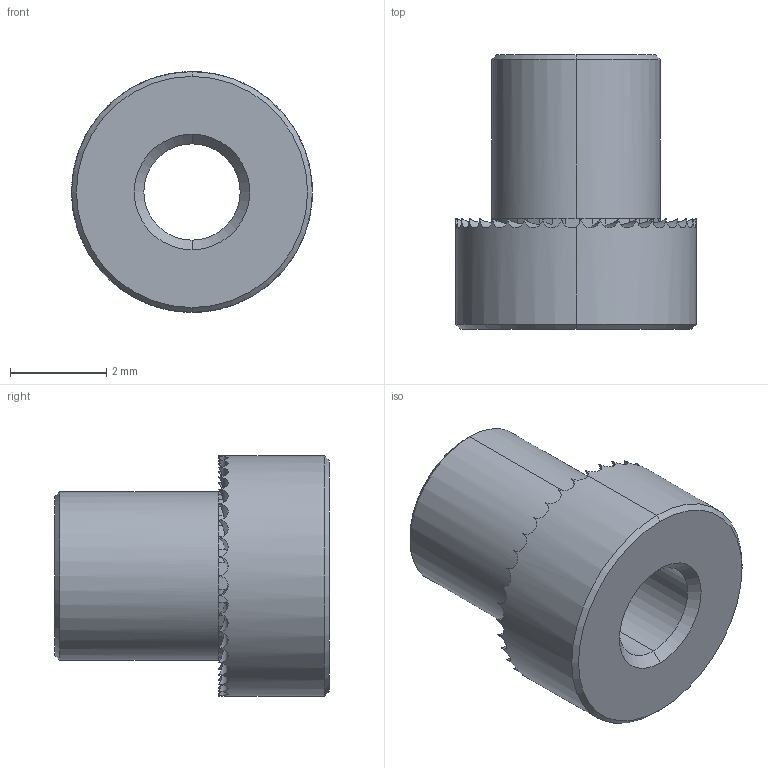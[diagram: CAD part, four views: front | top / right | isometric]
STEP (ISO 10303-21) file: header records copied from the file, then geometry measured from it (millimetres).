
FILE_DESCRIPTION (( 'STEP AP203' ), '1' );
FILE_NAME ('P0829.020-10G-ZP.step', '2019-03-21T22:10:12', ( '' ), ( '' ), 'SwSTEP 2.0', 'SolidWorks 2017', '' );
FILE_SCHEMA (( 'CONFIG_CONTROL_DESIGN' ));
Length unit declared in the file: millimetre
Products named in the file (1): P0829.020-10G-ZP
Bounding box: 5 x 5.7 x 5 mm (x, y, z)
Volume: 57.9 mm3; surface area: 141.3 mm2
Topology: 1 solids, 1 shells, 172 faces, 424 edges, 254 vertices
Faces by surface type: plane 119, cylinder 45, cone 8
Entity records: 5343 total; most frequent: CARTESIAN_POINT 1317, ORIENTED_EDGE 848, DIRECTION 825, EDGE_CURVE 424, AXIS2_PLACEMENT_3D 308, VERTEX_POINT 254, VECTOR 209, LINE 209
